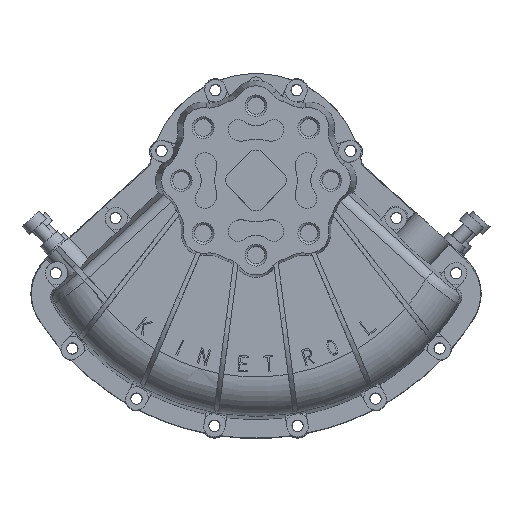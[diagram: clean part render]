
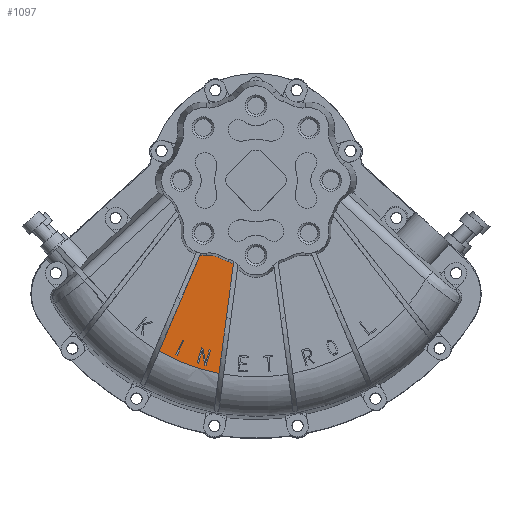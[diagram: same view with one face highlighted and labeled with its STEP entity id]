
A CAD part, top view. The second image highlights one B-rep face of the part: STEP entity #1097.
In plain terms, the highlighted planar face has unit normal (0, 0, 1).
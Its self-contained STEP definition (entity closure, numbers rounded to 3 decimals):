
#1097 = ADVANCED_FACE( '', ( #3524, #3525, #3526 ), #3527, .T. );
#3524 = FACE_OUTER_BOUND( '', #7550, .T. );
#3525 = FACE_BOUND( '', #7551, .T. );
#3526 = FACE_BOUND( '', #7552, .T. );
#3527 = PLANE( '', #7553 );
#7550 = EDGE_LOOP( '', ( #16528, #16529, #16530, #16531, #16532, #16533, #16534 ) );
#7551 = EDGE_LOOP( '', ( #16535, #16536, #16537, #16538 ) );
#7552 = EDGE_LOOP( '', ( #16539, #16540, #16541, #16542, #16543, #16544, #16545, #16546, #16547, #16548 ) );
#7553 = AXIS2_PLACEMENT_3D( '', #16549, #16550, #16551 );
#16528 = ORIENTED_EDGE( '', *, *, #20714, .T. );
#16529 = ORIENTED_EDGE( '', *, *, #20524, .T. );
#16530 = ORIENTED_EDGE( '', *, *, #20694, .T. );
#16531 = ORIENTED_EDGE( '', *, *, #20552, .T. );
#16532 = ORIENTED_EDGE( '', *, *, #20711, .T. );
#16533 = ORIENTED_EDGE( '', *, *, #20616, .T. );
#16534 = ORIENTED_EDGE( '', *, *, #20614, .T. );
#16535 = ORIENTED_EDGE( '', *, *, #20455, .T. );
#16536 = ORIENTED_EDGE( '', *, *, #20453, .T. );
#16537 = ORIENTED_EDGE( '', *, *, #20451, .T. );
#16538 = ORIENTED_EDGE( '', *, *, #20448, .T. );
#16539 = ORIENTED_EDGE( '', *, *, #20429, .F. );
#16540 = ORIENTED_EDGE( '', *, *, #20431, .F. );
#16541 = ORIENTED_EDGE( '', *, *, #20412, .F. );
#16542 = ORIENTED_EDGE( '', *, *, #20415, .F. );
#16543 = ORIENTED_EDGE( '', *, *, #20417, .F. );
#16544 = ORIENTED_EDGE( '', *, *, #20419, .F. );
#16545 = ORIENTED_EDGE( '', *, *, #20421, .F. );
#16546 = ORIENTED_EDGE( '', *, *, #20423, .F. );
#16547 = ORIENTED_EDGE( '', *, *, #20425, .F. );
#16548 = ORIENTED_EDGE( '', *, *, #20427, .F. );
#16549 = CARTESIAN_POINT( '', ( 0., 0., 247.125 ) );
#16550 = DIRECTION( '', ( 0., 0., 1. ) );
#16551 = DIRECTION( '', ( 1., 0., 0. ) );
#20412 = EDGE_CURVE( '', #25566, #25567, #25568, .T. );
#20415 = EDGE_CURVE( '', #25571, #25566, #25572, .T. );
#20417 = EDGE_CURVE( '', #25574, #25571, #25575, .T. );
#20419 = EDGE_CURVE( '', #25577, #25574, #25578, .T. );
#20421 = EDGE_CURVE( '', #25580, #25577, #25581, .T. );
#20423 = EDGE_CURVE( '', #25583, #25580, #25584, .T. );
#20425 = EDGE_CURVE( '', #25586, #25583, #25587, .T. );
#20427 = EDGE_CURVE( '', #25589, #25586, #25590, .T. );
#20429 = EDGE_CURVE( '', #25592, #25589, #25593, .T. );
#20431 = EDGE_CURVE( '', #25567, #25592, #25595, .T. );
#20448 = EDGE_CURVE( '', #25622, #25623, #25624, .T. );
#20451 = EDGE_CURVE( '', #25627, #25622, #25628, .T. );
#20453 = EDGE_CURVE( '', #25630, #25627, #25631, .T. );
#20455 = EDGE_CURVE( '', #25623, #25630, #25633, .T. );
#20524 = EDGE_CURVE( '', #25755, #25753, #25756, .T. );
#20552 = EDGE_CURVE( '', #25794, #25796, #25798, .T. );
#20614 = EDGE_CURVE( '', #25898, #25896, #25899, .T. );
#20616 = EDGE_CURVE( '', #25901, #25898, #25902, .F. );
#20694 = EDGE_CURVE( '', #25753, #25794, #26023, .T. );
#20711 = EDGE_CURVE( '', #25796, #25901, #26046, .T. );
#20714 = EDGE_CURVE( '', #25896, #25755, #26049, .F. );
#25566 = VERTEX_POINT( '', #35888 );
#25567 = VERTEX_POINT( '', #35889 );
#25568 = LINE( '', #35890, #35891 );
#25571 = VERTEX_POINT( '', #35896 );
#25572 = LINE( '', #35897, #35898 );
#25574 = VERTEX_POINT( '', #35901 );
#25575 = LINE( '', #35902, #35903 );
#25577 = VERTEX_POINT( '', #35906 );
#25578 = LINE( '', #35907, #35908 );
#25580 = VERTEX_POINT( '', #35911 );
#25581 = LINE( '', #35912, #35913 );
#25583 = VERTEX_POINT( '', #35916 );
#25584 = LINE( '', #35917, #35918 );
#25586 = VERTEX_POINT( '', #35921 );
#25587 = LINE( '', #35922, #35923 );
#25589 = VERTEX_POINT( '', #35926 );
#25590 = LINE( '', #35927, #35928 );
#25592 = VERTEX_POINT( '', #35931 );
#25593 = LINE( '', #35932, #35933 );
#25595 = LINE( '', #35936, #35937 );
#25622 = VERTEX_POINT( '', #35980 );
#25623 = VERTEX_POINT( '', #35981 );
#25624 = LINE( '', #35982, #35983 );
#25627 = VERTEX_POINT( '', #35988 );
#25628 = LINE( '', #35989, #35990 );
#25630 = VERTEX_POINT( '', #35993 );
#25631 = LINE( '', #35994, #35995 );
#25633 = LINE( '', #35998, #35999 );
#25753 = VERTEX_POINT( '', #36524 );
#25755 = VERTEX_POINT( '', #36557 );
#25756 = LINE( '', #36558, #36559 );
#25794 = VERTEX_POINT( '', #36811 );
#25796 = VERTEX_POINT( '', #36842 );
#25798 = LINE( '', #36847, #36848 );
#25896 = VERTEX_POINT( '', #37282 );
#25898 = VERTEX_POINT( '', #37285 );
#25899 = CIRCLE( '', #37286, 31.489 );
#25901 = VERTEX_POINT( '', #37289 );
#25902 = CIRCLE( '', #37290, 129.511 );
#26023 = CIRCLE( '', #37585, 297.434 );
#26046 = CIRCLE( '', #37681, 31.489 );
#26049 = CIRCLE( '', #37685, 33.511 );
#35888 = CARTESIAN_POINT( '', ( -76.308, -275.217, 247.125 ) );
#35889 = CARTESIAN_POINT( '', ( -80.329, -253.581, 247.125 ) );
#35890 = CARTESIAN_POINT( '', ( -76.308, -275.217, 247.125 ) );
#35891 = VECTOR( '', #42630, 1000. );
#35896 = CARTESIAN_POINT( '', ( -70.741, -256.421, 247.125 ) );
#35897 = CARTESIAN_POINT( '', ( -70.741, -256.421, 247.125 ) );
#35898 = VECTOR( '', #42633, 1000. );
#35901 = CARTESIAN_POINT( '', ( -68.81, -256.946, 247.125 ) );
#35902 = CARTESIAN_POINT( '', ( -70.741, -256.421, 247.125 ) );
#35903 = VECTOR( '', #42635, 1000. );
#35906 = CARTESIAN_POINT( '', ( -75.629, -279.965, 247.125 ) );
#35907 = CARTESIAN_POINT( '', ( -68.81, -256.946, 247.125 ) );
#35908 = VECTOR( '', #42637, 1000. );
#35911 = CARTESIAN_POINT( '', ( -77.558, -279.436, 247.125 ) );
#35912 = CARTESIAN_POINT( '', ( -77.558, -279.436, 247.125 ) );
#35913 = VECTOR( '', #42639, 1000. );
#35916 = CARTESIAN_POINT( '', ( -81.579, -257.802, 247.125 ) );
#35917 = CARTESIAN_POINT( '', ( -77.558, -279.436, 247.125 ) );
#35918 = VECTOR( '', #42641, 1000. );
#35921 = CARTESIAN_POINT( '', ( -87.146, -276.596, 247.125 ) );
#35922 = CARTESIAN_POINT( '', ( -81.579, -257.802, 247.125 ) );
#35923 = VECTOR( '', #42643, 1000. );
#35926 = CARTESIAN_POINT( '', ( -89.052, -275.989, 247.125 ) );
#35927 = CARTESIAN_POINT( '', ( -89.052, -275.989, 247.125 ) );
#35928 = VECTOR( '', #42645, 1000. );
#35931 = CARTESIAN_POINT( '', ( -82.234, -252.97, 247.125 ) );
#35932 = CARTESIAN_POINT( '', ( -82.234, -252.97, 247.125 ) );
#35933 = VECTOR( '', #42647, 1000. );
#35936 = CARTESIAN_POINT( '', ( -82.234, -252.97, 247.125 ) );
#35937 = VECTOR( '', #42649, 1000. );
#35980 = CARTESIAN_POINT( '', ( -109.398, -242.463, 247.125 ) );
#35981 = CARTESIAN_POINT( '', ( -119.35, -264.302, 247.125 ) );
#35982 = CARTESIAN_POINT( '', ( -119.35, -264.302, 247.125 ) );
#35983 = VECTOR( '', #42666, 1000. );
#35988 = CARTESIAN_POINT( '', ( -111.218, -241.633, 247.125 ) );
#35989 = CARTESIAN_POINT( '', ( -111.218, -241.633, 247.125 ) );
#35990 = VECTOR( '', #42669, 1000. );
#35993 = CARTESIAN_POINT( '', ( -121.17, -263.473, 247.125 ) );
#35994 = CARTESIAN_POINT( '', ( -121.17, -263.473, 247.125 ) );
#35995 = VECTOR( '', #42671, 1000. );
#35998 = CARTESIAN_POINT( '', ( -121.17, -263.473, 247.125 ) );
#35999 = VECTOR( '', #42673, 1000. );
#36524 = CARTESIAN_POINT( '', ( -146.791, -258.688, 247.125 ) );
#36557 = CARTESIAN_POINT( '', ( -85.007, -113.135, 247.125 ) );
#36558 = CARTESIAN_POINT( '', ( -31.338, 13.302, 247.125 ) );
#36559 = VECTOR( '', #42770, 1000. );
#36811 = CARTESIAN_POINT( '', ( -56.013, -292.112, 247.125 ) );
#36842 = CARTESIAN_POINT( '', ( -34.181, -126.282, 247.125 ) );
#36847 = CARTESIAN_POINT( '', ( -17.256, 2.272, 247.125 ) );
#36848 = VECTOR( '', #42789, 1000. );
#37282 = CARTESIAN_POINT( '', ( -75.462, -113.203, 247.125 ) );
#37285 = CARTESIAN_POINT( '', ( -57.273, -116.159, 247.125 ) );
#37286 = AXIS2_PLACEMENT_3D( '', #42878, #42879, #42880 );
#37289 = CARTESIAN_POINT( '', ( -41.525, -122.674, 247.125 ) );
#37290 = AXIS2_PLACEMENT_3D( '', #42882, #42883, #42884 );
#37585 = AXIS2_PLACEMENT_3D( '', #43036, #43037, #43038 );
#37681 = AXIS2_PLACEMENT_3D( '', #43065, #43066, #43067 );
#37685 = AXIS2_PLACEMENT_3D( '', #43072, #43073, #43074 );
#42630 = DIRECTION( '', ( -0.183, 0.983, 0. ) );
#42633 = DIRECTION( '', ( -0.284, -0.959, 0. ) );
#42635 = DIRECTION( '', ( -0.965, 0.262, 0. ) );
#42637 = DIRECTION( '', ( 0.284, 0.959, 0. ) );
#42639 = DIRECTION( '', ( 0.964, -0.264, 0. ) );
#42641 = DIRECTION( '', ( 0.183, -0.983, 0. ) );
#42643 = DIRECTION( '', ( 0.284, 0.959, 0. ) );
#42645 = DIRECTION( '', ( 0.953, -0.304, 0. ) );
#42647 = DIRECTION( '', ( -0.284, -0.959, 0. ) );
#42649 = DIRECTION( '', ( -0.952, 0.306, 0. ) );
#42666 = DIRECTION( '', ( -0.415, -0.91, 0. ) );
#42669 = DIRECTION( '', ( 0.91, -0.415, 0. ) );
#42671 = DIRECTION( '', ( 0.415, 0.91, 0. ) );
#42673 = DIRECTION( '', ( -0.91, 0.415, 0. ) );
#42770 = DIRECTION( '', ( -0.391, -0.921, 0. ) );
#42789 = DIRECTION( '', ( 0.131, 0.991, 0. ) );
#42878 = CARTESIAN_POINT( '', ( -71.199, -144.401, 247.125 ) );
#42879 = DIRECTION( '', ( 0., 0., 1. ) );
#42880 = DIRECTION( '', ( 1., 0., 0. ) );
#42882 = CARTESIAN_POINT( '', ( 0., 0., 247.125 ) );
#42883 = DIRECTION( '', ( 0., 0., 1. ) );
#42884 = DIRECTION( '', ( 1., 0., 0. ) );
#43036 = CARTESIAN_POINT( '', ( 0., 0., 247.125 ) );
#43037 = DIRECTION( '', ( 0., 0., 1. ) );
#43038 = DIRECTION( '', ( 1., 0., 0. ) );
#43065 = CARTESIAN_POINT( '', ( -51.621, -152.5, 247.125 ) );
#43066 = DIRECTION( '', ( 0., 0., 1. ) );
#43067 = DIRECTION( '', ( 1., 0., 0. ) );
#43072 = CARTESIAN_POINT( '', ( -80., -80., 247.125 ) );
#43073 = DIRECTION( '', ( 0., 0., 1. ) );
#43074 = DIRECTION( '', ( 1., 0., 0. ) );
